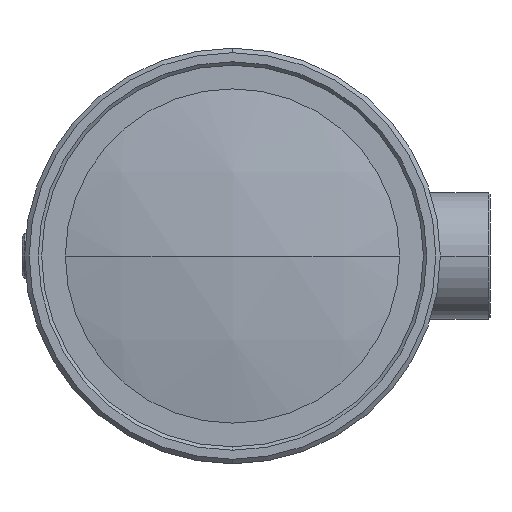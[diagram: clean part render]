
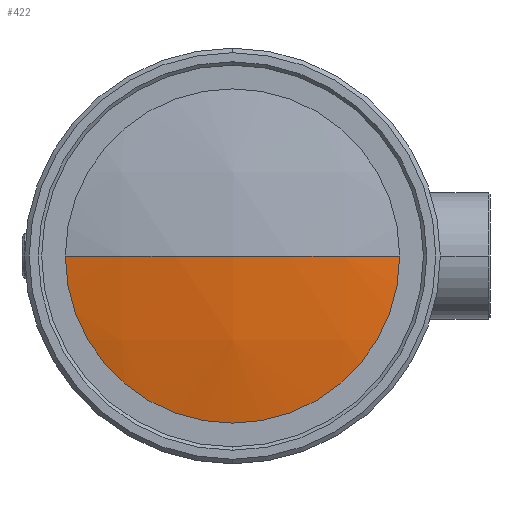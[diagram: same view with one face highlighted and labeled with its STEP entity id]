
A CAD part, left-side view. The second image highlights one B-rep face of the part: STEP entity #422.
In plain terms, the highlighted spherical face has radius 82 mm.
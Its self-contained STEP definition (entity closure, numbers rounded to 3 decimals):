
#63 = AXIS2_PLACEMENT_3D ( 'NONE', #2909, #3858, #2341 ) ;
#422 = ADVANCED_FACE ( 'NONE', ( #2444 ), #2114, .T. ) ;
#479 = AXIS2_PLACEMENT_3D ( 'NONE', #3807, #6345, #3288 ) ;
#489 = DIRECTION ( 'NONE',  ( 0., 0., -1. ) ) ;
#577 = VERTEX_POINT ( 'NONE', #4507 ) ;
#718 = CIRCLE ( 'NONE', #5275, 18.5 ) ;
#879 = AXIS2_PLACEMENT_3D ( 'NONE', #991, #489, #3097 ) ;
#972 = AXIS2_PLACEMENT_3D ( 'NONE', #1386, #3018, #6607 ) ;
#991 = CARTESIAN_POINT ( 'NONE',  ( 458.018, 300.5, 0. ) ) ;
#1333 = EDGE_CURVE ( 'NONE', #1707, #577, #1777, .T. ) ;
#1339 = VERTEX_POINT ( 'NONE', #2048 ) ;
#1386 = CARTESIAN_POINT ( 'NONE',  ( 458.018, 300.5, 0. ) ) ;
#1640 = CIRCLE ( 'NONE', #63, 18.5 ) ;
#1707 = VERTEX_POINT ( 'NONE', #3905 ) ;
#1777 = CIRCLE ( 'NONE', #879, 82. ) ;
#2048 = CARTESIAN_POINT ( 'NONE',  ( 378.132, 300.5, -18.5 ) ) ;
#2085 = ORIENTED_EDGE ( 'NONE', *, *, #2408, .T. ) ;
#2114 = SPHERICAL_SURFACE ( 'NONE', #479, 82. ) ;
#2306 = ORIENTED_EDGE ( 'NONE', *, *, #5048, .T. ) ;
#2341 = DIRECTION ( 'NONE',  ( 0., 0., 1. ) ) ;
#2408 = EDGE_CURVE ( 'NONE', #3194, #1339, #718, .T. ) ;
#2444 = FACE_OUTER_BOUND ( 'NONE', #2940, .T. ) ;
#2599 = DIRECTION ( 'NONE',  ( -1., 0., 0. ) ) ;
#2909 = CARTESIAN_POINT ( 'NONE',  ( 378.132, 300.5, 0. ) ) ;
#2940 = EDGE_LOOP ( 'NONE', ( #2085, #2306, #3323, #4482 ) ) ;
#2945 = CIRCLE ( 'NONE', #972, 82. ) ;
#3018 = DIRECTION ( 'NONE',  ( 0., 0., 1. ) ) ;
#3097 = DIRECTION ( 'NONE',  ( 0., 1., 0. ) ) ;
#3128 = DIRECTION ( 'NONE',  ( 0., 0., 1. ) ) ;
#3194 = VERTEX_POINT ( 'NONE', #3775 ) ;
#3288 = DIRECTION ( 'NONE',  ( 0., 1., 0. ) ) ;
#3323 = ORIENTED_EDGE ( 'NONE', *, *, #1333, .T. ) ;
#3557 = CARTESIAN_POINT ( 'NONE',  ( 378.132, 300.5, 0. ) ) ;
#3775 = CARTESIAN_POINT ( 'NONE',  ( 378.132, 319., 0. ) ) ;
#3807 = CARTESIAN_POINT ( 'NONE',  ( 458.018, 300.5, 0. ) ) ;
#3858 = DIRECTION ( 'NONE',  ( -1., 0., 0. ) ) ;
#3905 = CARTESIAN_POINT ( 'NONE',  ( 378.132, 282., 0. ) ) ;
#4049 = EDGE_CURVE ( 'NONE', #3194, #577, #2945, .T. ) ;
#4482 = ORIENTED_EDGE ( 'NONE', *, *, #4049, .F. ) ;
#4507 = CARTESIAN_POINT ( 'NONE',  ( 376.018, 300.5, 0. ) ) ;
#5048 = EDGE_CURVE ( 'NONE', #1339, #1707, #1640, .T. ) ;
#5275 = AXIS2_PLACEMENT_3D ( 'NONE', #3557, #2599, #3128 ) ;
#6345 = DIRECTION ( 'NONE',  ( 0., 0., -1. ) ) ;
#6607 = DIRECTION ( 'NONE',  ( 1., 0., 0. ) ) ;
